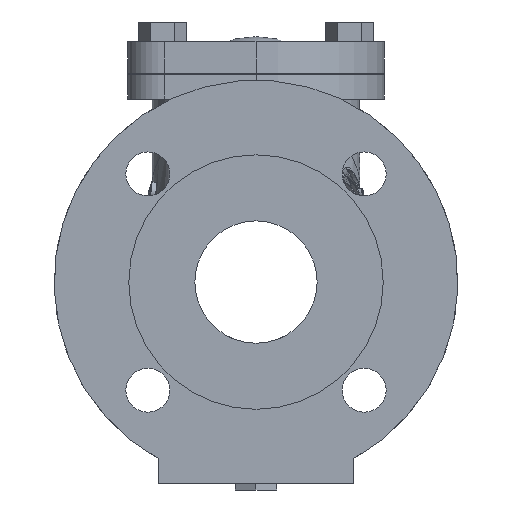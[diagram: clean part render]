
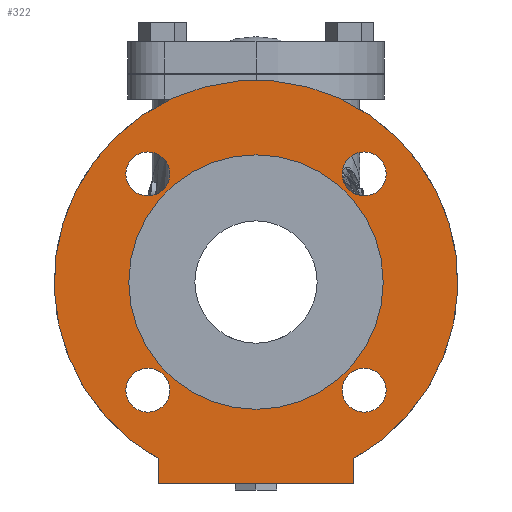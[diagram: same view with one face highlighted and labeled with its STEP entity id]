
A CAD part, front view. The second image highlights one B-rep face of the part: STEP entity #322.
In plain terms, the highlighted planar face has unit normal (0, -1, 0).
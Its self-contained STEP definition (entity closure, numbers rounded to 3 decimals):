
#322 = ADVANCED_FACE( '', ( #889, #890, #891, #892, #893, #894 ), #895, .F. );
#889 = FACE_BOUND( '', #2228, .T. );
#890 = FACE_BOUND( '', #2229, .T. );
#891 = FACE_BOUND( '', #2230, .T. );
#892 = FACE_BOUND( '', #2231, .T. );
#893 = FACE_BOUND( '', #2232, .T. );
#894 = FACE_OUTER_BOUND( '', #2233, .T. );
#895 = PLANE( '', #2234 );
#2228 = EDGE_LOOP( '', ( #10058 ) );
#2229 = EDGE_LOOP( '', ( #10059 ) );
#2230 = EDGE_LOOP( '', ( #10060 ) );
#2231 = EDGE_LOOP( '', ( #10061 ) );
#2232 = EDGE_LOOP( '', ( #10062 ) );
#2233 = EDGE_LOOP( '', ( #10063, #10064, #10065, #10066 ) );
#2234 = AXIS2_PLACEMENT_3D( '', #10067, #10068, #10069 );
#10058 = ORIENTED_EDGE( '', *, *, #12125, .T. );
#10059 = ORIENTED_EDGE( '', *, *, #12096, .T. );
#10060 = ORIENTED_EDGE( '', *, *, #12126, .T. );
#10061 = ORIENTED_EDGE( '', *, *, #12127, .T. );
#10062 = ORIENTED_EDGE( '', *, *, #12128, .F. );
#10063 = ORIENTED_EDGE( '', *, *, #12129, .T. );
#10064 = ORIENTED_EDGE( '', *, *, #12130, .T. );
#10065 = ORIENTED_EDGE( '', *, *, #12131, .T. );
#10066 = ORIENTED_EDGE( '', *, *, #12132, .T. );
#10067 = CARTESIAN_POINT( '', ( 0., -97., 52. ) );
#10068 = DIRECTION( '', ( 0., 1., 0. ) );
#10069 = DIRECTION( '', ( 0., 0., 1. ) );
#12096 = EDGE_CURVE( '', #13000, #13000, #13001, .T. );
#12125 = EDGE_CURVE( '', #13051, #13051, #13052, .T. );
#12126 = EDGE_CURVE( '', #13053, #13053, #13054, .T. );
#12127 = EDGE_CURVE( '', #13055, #13055, #13056, .T. );
#12128 = EDGE_CURVE( '', #13057, #13057, #13058, .T. );
#12129 = EDGE_CURVE( '', #13059, #13060, #13061, .T. );
#12130 = EDGE_CURVE( '', #13060, #13062, #13063, .T. );
#12131 = EDGE_CURVE( '', #13062, #13064, #13065, .T. );
#12132 = EDGE_CURVE( '', #13064, #13059, #13066, .T. );
#13000 = VERTEX_POINT( '', #14578 );
#13001 = CIRCLE( '', #14579, 9. );
#13051 = VERTEX_POINT( '', #15012 );
#13052 = CIRCLE( '', #15013, 9. );
#13053 = VERTEX_POINT( '', #15014 );
#13054 = CIRCLE( '', #15015, 9. );
#13055 = VERTEX_POINT( '', #15016 );
#13056 = CIRCLE( '', #15017, 9. );
#13057 = VERTEX_POINT( '', #15018 );
#13058 = CIRCLE( '', #15019, 52. );
#13059 = VERTEX_POINT( '', #15020 );
#13060 = VERTEX_POINT( '', #15021 );
#13061 = CIRCLE( '', #15022, 82.5 );
#13062 = VERTEX_POINT( '', #15023 );
#13063 = LINE( '', #15024, #15025 );
#13064 = VERTEX_POINT( '', #15026 );
#13065 = LINE( '', #15027, #15028 );
#13066 = LINE( '', #15029, #15030 );
#14578 = CARTESIAN_POINT( '', ( 44.194, -97., -35.194 ) );
#14579 = AXIS2_PLACEMENT_3D( '', #21330, #21331, #21332 );
#15012 = CARTESIAN_POINT( '', ( 35.194, -97., 44.194 ) );
#15013 = AXIS2_PLACEMENT_3D( '', #21363, #21364, #21365 );
#15014 = CARTESIAN_POINT( '', ( -35.194, -97., -44.194 ) );
#15015 = AXIS2_PLACEMENT_3D( '', #21366, #21367, #21368 );
#15016 = CARTESIAN_POINT( '', ( -44.194, -97., 35.194 ) );
#15017 = AXIS2_PLACEMENT_3D( '', #21369, #21370, #21371 );
#15018 = CARTESIAN_POINT( '', ( 0., -97., -52. ) );
#15019 = AXIS2_PLACEMENT_3D( '', #21372, #21373, #21374 );
#15020 = CARTESIAN_POINT( '', ( 40., -97., -72.154 ) );
#15021 = CARTESIAN_POINT( '', ( -40., -97., -72.154 ) );
#15022 = AXIS2_PLACEMENT_3D( '', #21375, #21376, #21377 );
#15023 = CARTESIAN_POINT( '', ( -40., -97., -82.5 ) );
#15024 = CARTESIAN_POINT( '', ( -40., -97., -82.5 ) );
#15025 = VECTOR( '', #21378, 1000. );
#15026 = CARTESIAN_POINT( '', ( 40., -97., -82.5 ) );
#15027 = CARTESIAN_POINT( '', ( -40., -97., -82.5 ) );
#15028 = VECTOR( '', #21379, 1000. );
#15029 = CARTESIAN_POINT( '', ( 40., -97., -82.5 ) );
#15030 = VECTOR( '', #21380, 1000. );
#21330 = CARTESIAN_POINT( '', ( 44.194, -97., -44.194 ) );
#21331 = DIRECTION( '', ( 0., 1., 0. ) );
#21332 = DIRECTION( '', ( 0., 0., 1. ) );
#21363 = CARTESIAN_POINT( '', ( 44.194, -97., 44.194 ) );
#21364 = DIRECTION( '', ( 0., 1., 0. ) );
#21365 = DIRECTION( '', ( -1., 0., 0. ) );
#21366 = CARTESIAN_POINT( '', ( -44.194, -97., -44.194 ) );
#21367 = DIRECTION( '', ( 0., 1., 0. ) );
#21368 = DIRECTION( '', ( 1., 0., 0. ) );
#21369 = CARTESIAN_POINT( '', ( -44.194, -97., 44.194 ) );
#21370 = DIRECTION( '', ( 0., 1., 0. ) );
#21371 = DIRECTION( '', ( 0., 0., -1. ) );
#21372 = CARTESIAN_POINT( '', ( 0., -97., 0. ) );
#21373 = DIRECTION( '', ( 0., -1., 0. ) );
#21374 = DIRECTION( '', ( 0., 0., -1. ) );
#21375 = CARTESIAN_POINT( '', ( 0., -97., 0. ) );
#21376 = DIRECTION( '', ( 0., -1., 0. ) );
#21377 = DIRECTION( '', ( 0., 0., -1. ) );
#21378 = DIRECTION( '', ( 0., 0., -1. ) );
#21379 = DIRECTION( '', ( 1., 0., 0. ) );
#21380 = DIRECTION( '', ( 0., 0., 1. ) );
